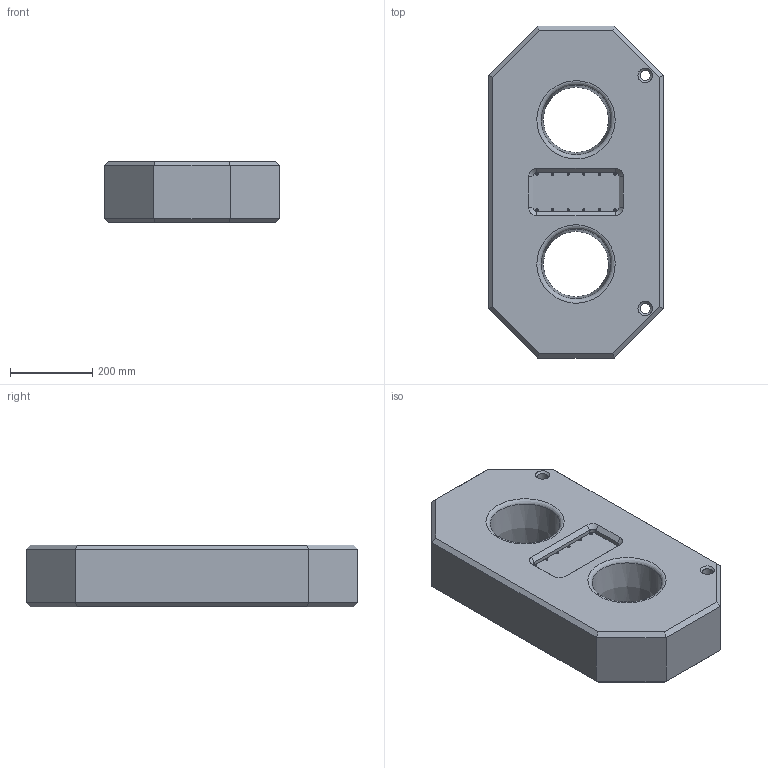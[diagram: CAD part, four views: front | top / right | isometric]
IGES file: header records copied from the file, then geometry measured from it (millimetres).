
Global section: file name: RLP300T; native system: Autodesk Inventor 2016; preprocessor: unknown; author: rdivakaran; date: 20180811.132349; units: metre
Bounding box: 426 x 806 x 150 mm (x, y, z)
Volume: 39615445.2 mm3; surface area: 1027381.8 mm2
Topology: 1 solids, 1 shells, 1074 faces, 3007 edges, 2030 vertices
Faces by surface type: bspline 1074
